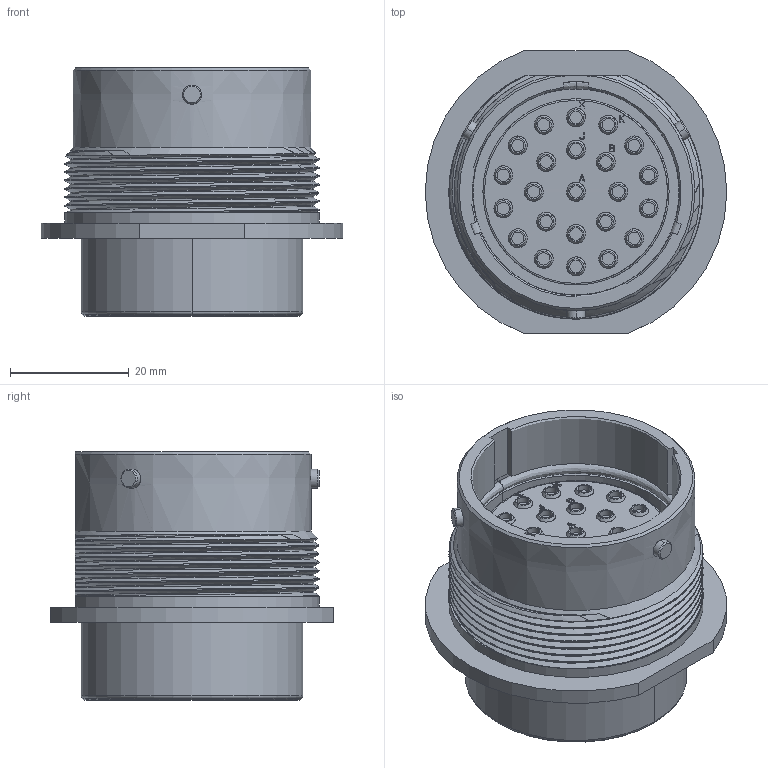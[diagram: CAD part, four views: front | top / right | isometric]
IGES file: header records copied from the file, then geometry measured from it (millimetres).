
Start section:  PTC IGES file: c-hd34-24-23pt-059-99-3d.igs
Global section: file name: c-hd34-24-23pt-059-99-3d.igs; native system: Pro/ENGINEER by Parametric Technology Corporation; preprocessor: 2010430; author: workeradm; organization: Unknown; units: millimetre
Bounding box: 50.8 x 47.62 x 41.83 mm (x, y, z)
Surface area: 13185.8 mm2 (no closed solid volume)
Topology: 0 solids, 0 shells, 554 faces, 2498 edges, 2498 vertices
Faces by surface type: revolution 296, bspline 258
